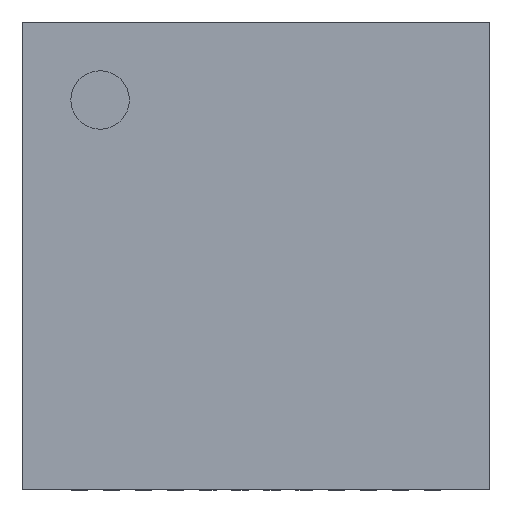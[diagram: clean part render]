
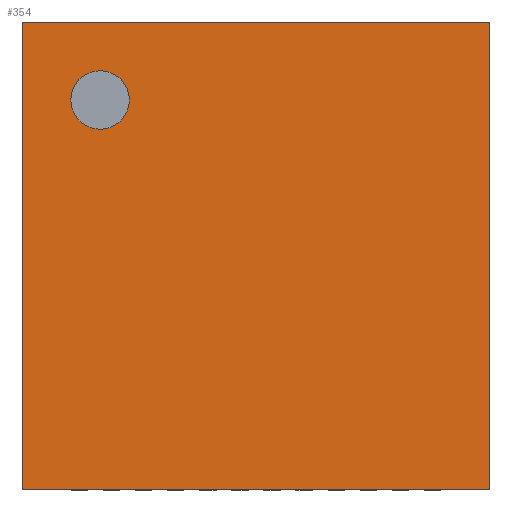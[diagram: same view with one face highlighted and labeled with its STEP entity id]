
A CAD part, top view. The second image highlights one B-rep face of the part: STEP entity #354.
In plain terms, the highlighted planar face has unit normal (0, 0, 1).
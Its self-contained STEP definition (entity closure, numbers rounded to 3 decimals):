
#290 = VERTEX_POINT('',#291);
#291 = CARTESIAN_POINT('',(0.,0.,0.6));
#306 = VERTEX_POINT('',#307);
#307 = CARTESIAN_POINT('',(0.,5.1,0.6));
#313 = EDGE_CURVE('',#290,#306,#314,.T.);
#314 = LINE('',#315,#316);
#315 = CARTESIAN_POINT('',(0.,0.,0.6));
#316 = VECTOR('',#317,1.);
#317 = DIRECTION('',(0.,1.,0.));
#336 = EDGE_CURVE('',#290,#337,#339,.T.);
#337 = VERTEX_POINT('',#338);
#338 = CARTESIAN_POINT('',(5.1,0.,0.6));
#339 = LINE('',#340,#341);
#340 = CARTESIAN_POINT('',(0.,0.,0.6));
#341 = VECTOR('',#342,1.);
#342 = DIRECTION('',(1.,0.,0.));
#354 = ADVANCED_FACE('',(#355,#373),#384,.T.);
#355 = FACE_BOUND('',#356,.T.);
#356 = EDGE_LOOP('',(#357,#358,#359,#367));
#357 = ORIENTED_EDGE('',*,*,#313,.F.);
#358 = ORIENTED_EDGE('',*,*,#336,.T.);
#359 = ORIENTED_EDGE('',*,*,#360,.T.);
#360 = EDGE_CURVE('',#337,#361,#363,.T.);
#361 = VERTEX_POINT('',#362);
#362 = CARTESIAN_POINT('',(5.1,5.1,0.6));
#363 = LINE('',#364,#365);
#364 = CARTESIAN_POINT('',(5.1,0.,0.6));
#365 = VECTOR('',#366,1.);
#366 = DIRECTION('',(0.,1.,0.));
#367 = ORIENTED_EDGE('',*,*,#368,.F.);
#368 = EDGE_CURVE('',#306,#361,#369,.T.);
#369 = LINE('',#370,#371);
#370 = CARTESIAN_POINT('',(0.,5.1,0.6));
#371 = VECTOR('',#372,1.);
#372 = DIRECTION('',(1.,0.,0.));
#373 = FACE_BOUND('',#374,.T.);
#374 = EDGE_LOOP('',(#375));
#375 = ORIENTED_EDGE('',*,*,#376,.F.);
#376 = EDGE_CURVE('',#377,#377,#379,.T.);
#377 = VERTEX_POINT('',#378);
#378 = CARTESIAN_POINT('',(1.169,4.25,0.6));
#379 = CIRCLE('',#380,0.319);
#380 = AXIS2_PLACEMENT_3D('',#381,#382,#383);
#381 = CARTESIAN_POINT('',(0.85,4.25,0.6));
#382 = DIRECTION('',(0.,0.,1.));
#383 = DIRECTION('',(1.,0.,0.));
#384 = PLANE('',#385);
#385 = AXIS2_PLACEMENT_3D('',#386,#387,#388);
#386 = CARTESIAN_POINT('',(0.,0.,0.6));
#387 = DIRECTION('',(0.,0.,1.));
#388 = DIRECTION('',(1.,0.,0.));
